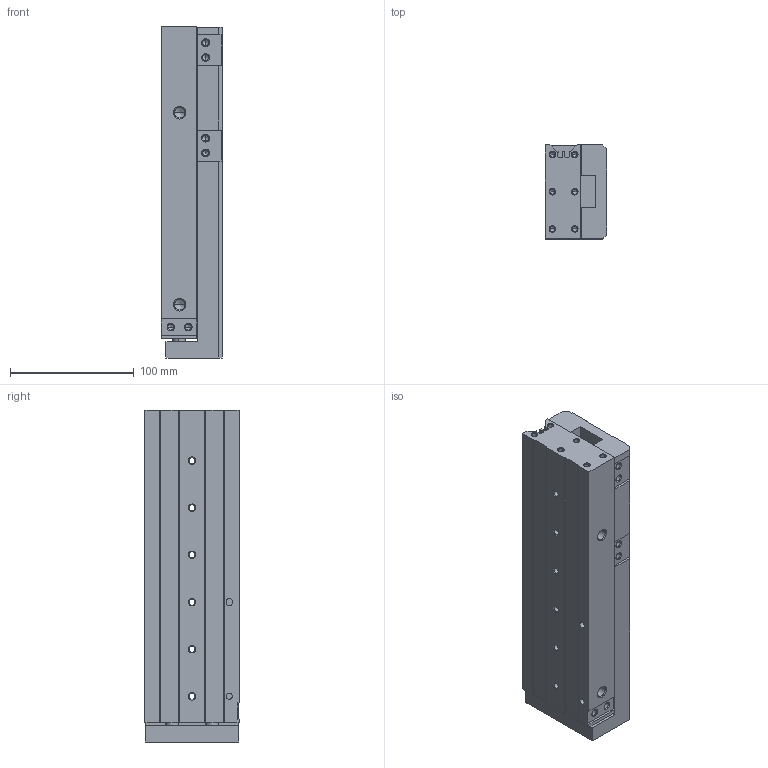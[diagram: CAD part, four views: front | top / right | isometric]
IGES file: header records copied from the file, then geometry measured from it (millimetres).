
Global section: file name: No Iges File Name specified; native system: Autodesk Inventor 2011; preprocessor: AutoDesk Inventor Iges Exporter R2011; author: airolcr1; date: 20110310.120031; units: millimetre
Bounding box: 50 x 76 x 268 mm (x, y, z)
Volume: 908066.5 mm3; surface area: 158699.5 mm2
Topology: 2 solids, 2 shells, 297 faces, 738 edges, 432 vertices
Faces by surface type: bspline 199, plane 82, revolution 12, cylinder 4
